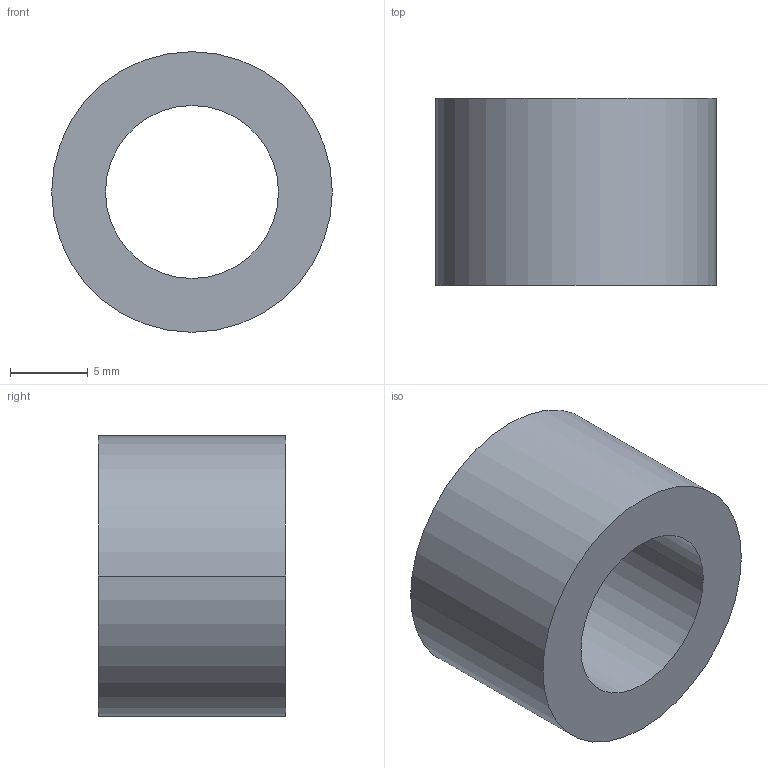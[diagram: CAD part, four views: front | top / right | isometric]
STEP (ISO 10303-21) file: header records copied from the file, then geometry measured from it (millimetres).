
FILE_DESCRIPTION (( 'STEP AP203' ), '1' );
FILE_NAME ('30800.WPP18E11.1.step', '2019-01-23T22:36:18', ( '' ), ( '' ), 'SwSTEP 2.0', 'SolidWorks 2017', '' );
FILE_SCHEMA (( 'CONFIG_CONTROL_DESIGN' ));
Length unit declared in the file: millimetre
Products named in the file (1): 30800.WPP18E11.1
Bounding box: 18 x 12 x 18 mm (x, y, z)
Volume: 1860.1 mm3; surface area: 1384.3 mm2
Topology: 1 solids, 1 shells, 8 faces, 16 edges, 10 vertices
Faces by surface type: cylinder 4, torus 2, plane 2
Entity records: 297 total; most frequent: DIRECTION 46, CARTESIAN_POINT 35, ORIENTED_EDGE 32, AXIS2_PLACEMENT_3D 21, EDGE_CURVE 16, CIRCLE 12, VERTEX_POINT 10, EDGE_LOOP 10
